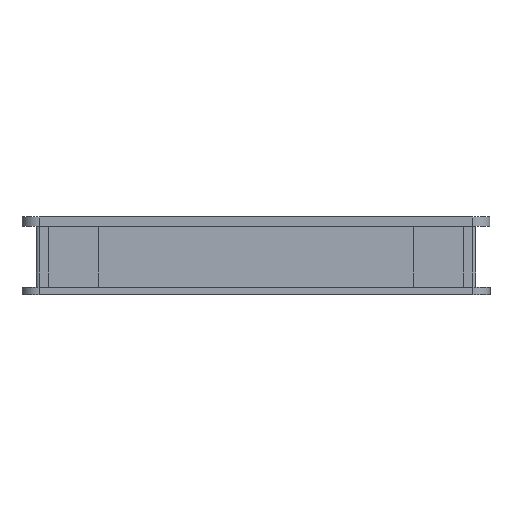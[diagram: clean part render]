
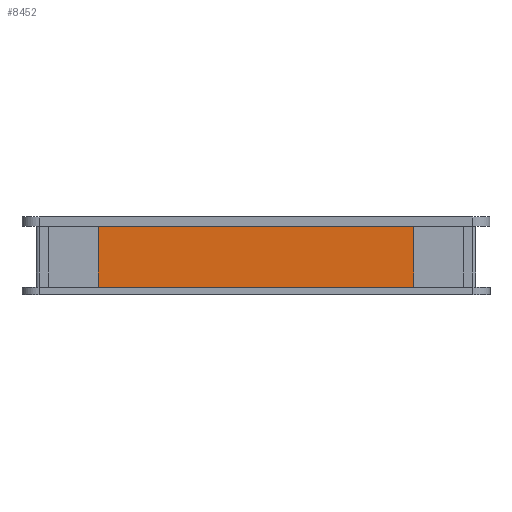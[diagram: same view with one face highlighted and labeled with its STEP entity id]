
A CAD part, left-side view. The second image highlights one B-rep face of the part: STEP entity #8452.
In plain terms, the highlighted planar face has unit normal (-1, 0, 0).
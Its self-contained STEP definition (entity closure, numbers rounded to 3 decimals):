
#213 = VERTEX_POINT ( 'NONE', #8810 ) ;
#904 = CARTESIAN_POINT ( 'NONE',  ( -275.983, 167.86, -131.045 ) ) ;
#1479 = FACE_OUTER_BOUND ( 'NONE', #2668, .T. ) ;
#1567 = CARTESIAN_POINT ( 'NONE',  ( -275.983, -98.14, -92.045 ) ) ;
#1802 = CARTESIAN_POINT ( 'NONE',  ( -275.983, -98.14, -131.045 ) ) ;
#2142 = VERTEX_POINT ( 'NONE', #904 ) ;
#2668 = EDGE_LOOP ( 'NONE', ( #9134, #4491, #8415, #9429 ) ) ;
#2688 = EDGE_CURVE ( 'NONE', #2142, #9251, #3969, .T. ) ;
#3094 = EDGE_CURVE ( 'NONE', #9251, #213, #11815, .T. ) ;
#3298 = DIRECTION ( 'NONE',  ( 0., -1., 0. ) ) ;
#3454 = CARTESIAN_POINT ( 'NONE',  ( -275.983, -98.14, -131.045 ) ) ;
#3969 = LINE ( 'NONE', #3454, #10353 ) ;
#4129 = LINE ( 'NONE', #1567, #4424 ) ;
#4243 = CARTESIAN_POINT ( 'NONE',  ( -275.983, 34.86, -111.545 ) ) ;
#4424 = VECTOR ( 'NONE', #9068, 1000. ) ;
#4491 = ORIENTED_EDGE ( 'NONE', *, *, #2688, .T. ) ;
#6251 = DIRECTION ( 'NONE',  ( 0., -1., 0. ) ) ;
#7282 = DIRECTION ( 'NONE',  ( 0., 0., -1. ) ) ;
#7414 = LINE ( 'NONE', #10967, #10232 ) ;
#7564 = EDGE_CURVE ( 'NONE', #213, #8891, #4129, .T. ) ;
#7649 = EDGE_CURVE ( 'NONE', #8891, #2142, #7414, .T. ) ;
#7815 = VECTOR ( 'NONE', #8205, 1000. ) ;
#8205 = DIRECTION ( 'NONE',  ( 0., 0., 1. ) ) ;
#8415 = ORIENTED_EDGE ( 'NONE', *, *, #3094, .T. ) ;
#8452 = ADVANCED_FACE ( 'NONE', ( #1479 ), #9050, .F. ) ;
#8810 = CARTESIAN_POINT ( 'NONE',  ( -275.983, -98.14, -92.045 ) ) ;
#8891 = VERTEX_POINT ( 'NONE', #10517 ) ;
#9050 = PLANE ( 'NONE',  #11190 ) ;
#9068 = DIRECTION ( 'NONE',  ( 0., 1., 0. ) ) ;
#9134 = ORIENTED_EDGE ( 'NONE', *, *, #7649, .T. ) ;
#9251 = VERTEX_POINT ( 'NONE', #1802 ) ;
#9429 = ORIENTED_EDGE ( 'NONE', *, *, #7564, .T. ) ;
#9884 = DIRECTION ( 'NONE',  ( 1., 0., 0. ) ) ;
#10152 = CARTESIAN_POINT ( 'NONE',  ( -275.983, -98.14, -92.045 ) ) ;
#10232 = VECTOR ( 'NONE', #7282, 1000. ) ;
#10353 = VECTOR ( 'NONE', #6251, 1000. ) ;
#10517 = CARTESIAN_POINT ( 'NONE',  ( -275.983, 167.86, -92.045 ) ) ;
#10967 = CARTESIAN_POINT ( 'NONE',  ( -275.983, 167.86, -92.045 ) ) ;
#11190 = AXIS2_PLACEMENT_3D ( 'NONE', #4243, #9884, #3298 ) ;
#11815 = LINE ( 'NONE', #10152, #7815 ) ;
